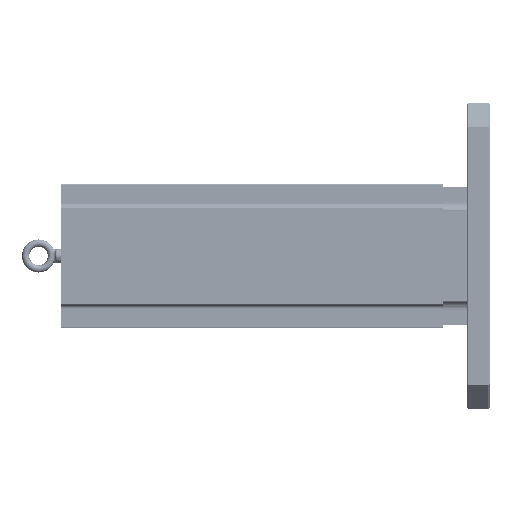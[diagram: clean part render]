
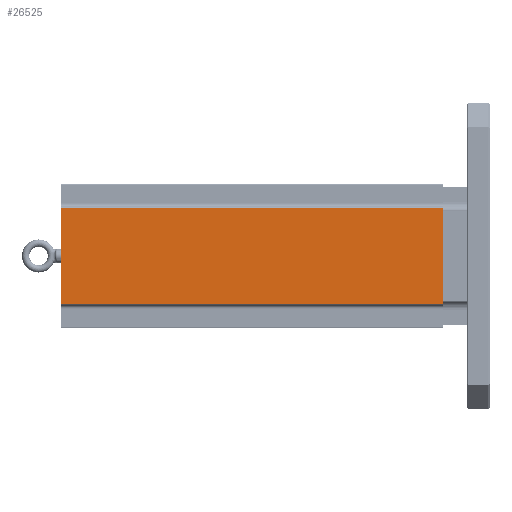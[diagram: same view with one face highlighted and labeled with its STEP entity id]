
A CAD part, left-side view. The second image highlights one B-rep face of the part: STEP entity #26525.
In plain terms, the highlighted planar face has unit normal (-1, 0, 0).
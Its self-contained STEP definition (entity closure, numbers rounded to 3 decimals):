
#143 = CARTESIAN_POINT ( 'NONE',  ( -116.992, 38.1, -79.273 ) ) ;
#648 = VERTEX_POINT ( 'NONE', #18428 ) ;
#1895 = VECTOR ( 'NONE', #4512, 1000. ) ;
#2343 = ORIENTED_EDGE ( 'NONE', *, *, #23691, .T. ) ;
#2708 = LINE ( 'NONE', #5111, #33877 ) ;
#4512 = DIRECTION ( 'NONE',  ( 0., 0., 1. ) ) ;
#4858 = DIRECTION ( 'NONE',  ( 0., 0., -1. ) ) ;
#5111 = CARTESIAN_POINT ( 'NONE',  ( -116.992, 662., 78.511 ) ) ;
#5923 = VERTEX_POINT ( 'NONE', #19358 ) ;
#6751 = LINE ( 'NONE', #28058, #1895 ) ;
#8477 = EDGE_LOOP ( 'NONE', ( #24610, #28829, #9585, #2343 ) ) ;
#9180 = DIRECTION ( 'NONE',  ( 0., -1., 0. ) ) ;
#9585 = ORIENTED_EDGE ( 'NONE', *, *, #23664, .F. ) ;
#10013 = PLANE ( 'NONE',  #14109 ) ;
#11757 = EDGE_CURVE ( 'NONE', #5923, #30985, #2708, .T. ) ;
#13185 = EDGE_CURVE ( 'NONE', #5923, #26223, #23682, .T. ) ;
#14109 = AXIS2_PLACEMENT_3D ( 'NONE', #30956, #28391, #4858 ) ;
#15290 = DIRECTION ( 'NONE',  ( 0., 0., -1. ) ) ;
#17233 = CARTESIAN_POINT ( 'NONE',  ( -116.992, 662., -78.511 ) ) ;
#18428 = CARTESIAN_POINT ( 'NONE',  ( -116.992, 662., -78.511 ) ) ;
#18932 = VECTOR ( 'NONE', #9180, 1000. ) ;
#19358 = CARTESIAN_POINT ( 'NONE',  ( -116.992, 38.1, 78.511 ) ) ;
#20258 = DIRECTION ( 'NONE',  ( 0., 1., 0. ) ) ;
#20494 = FACE_OUTER_BOUND ( 'NONE', #8477, .T. ) ;
#21058 = VECTOR ( 'NONE', #15290, 1000. ) ;
#21419 = CARTESIAN_POINT ( 'NONE',  ( -116.992, 38.1, -78.511 ) ) ;
#23664 = EDGE_CURVE ( 'NONE', #648, #30985, #6751, .T. ) ;
#23682 = LINE ( 'NONE', #143, #21058 ) ;
#23691 = EDGE_CURVE ( 'NONE', #648, #26223, #32684, .T. ) ;
#24610 = ORIENTED_EDGE ( 'NONE', *, *, #13185, .F. ) ;
#26223 = VERTEX_POINT ( 'NONE', #21419 ) ;
#26525 = ADVANCED_FACE ( 'NONE', ( #20494 ), #10013, .F. ) ;
#27190 = CARTESIAN_POINT ( 'NONE',  ( -116.992, 662., 78.511 ) ) ;
#28058 = CARTESIAN_POINT ( 'NONE',  ( -116.992, 662., -79.273 ) ) ;
#28391 = DIRECTION ( 'NONE',  ( 1., 0., 0. ) ) ;
#28829 = ORIENTED_EDGE ( 'NONE', *, *, #11757, .T. ) ;
#30956 = CARTESIAN_POINT ( 'NONE',  ( -116.992, 662., -79.273 ) ) ;
#30985 = VERTEX_POINT ( 'NONE', #27190 ) ;
#32684 = LINE ( 'NONE', #17233, #18932 ) ;
#33877 = VECTOR ( 'NONE', #20258, 1000. ) ;
